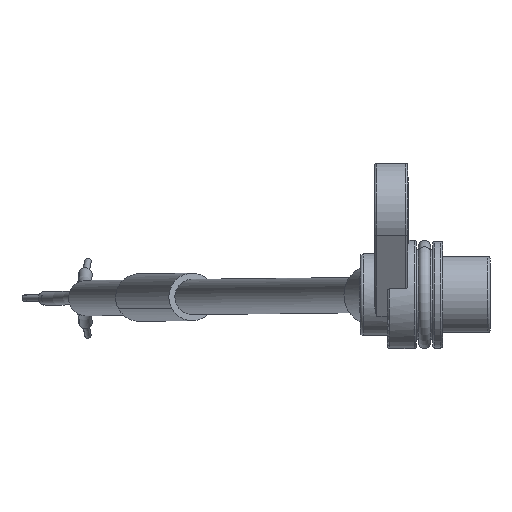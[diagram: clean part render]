
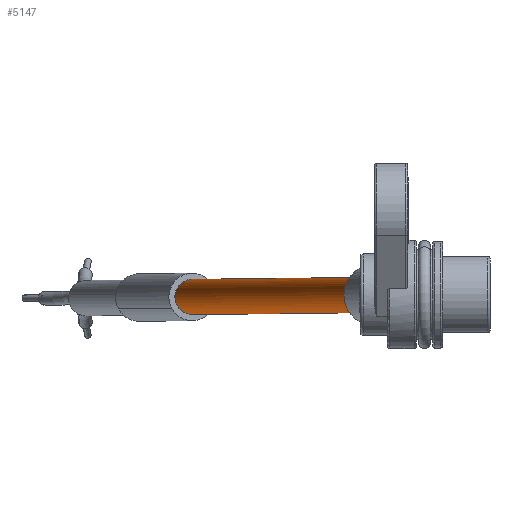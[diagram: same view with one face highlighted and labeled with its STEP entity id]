
A CAD part, top view. The second image highlights one B-rep face of the part: STEP entity #5147.
In plain terms, the highlighted cylindrical face has radius 2.6 mm (diameter 5.2 mm), a partial arc.
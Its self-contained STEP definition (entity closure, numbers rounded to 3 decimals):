
#4794=AXIS2_PLACEMENT_3D('Circle Axis2P3D',#4792,#4793,$) ;
#4894=AXIS2_PLACEMENT_3D('Cylinder Axis2P3D',#4891,#4892,#4893) ;
#5071=AXIS2_PLACEMENT_3D('Circle Axis2P3D',#5069,#5070,$) ;
#4792=CARTESIAN_POINT('Axis2P3D Location',(-170.,0.,0.)) ;
#4796=CARTESIAN_POINT('Vertex',(-170.,2.6,0.)) ;
#4798=CARTESIAN_POINT('Vertex',(-170.,-2.6,0.)) ;
#4891=CARTESIAN_POINT('Axis2P3D Location',(-135.,0.,0.)) ;
#5069=CARTESIAN_POINT('Axis2P3D Location',(0.,0.,0.)) ;
#5073=CARTESIAN_POINT('Vertex',(0.,2.6,0.)) ;
#5075=CARTESIAN_POINT('Vertex',(0.,-2.6,0.)) ;
#5131=CARTESIAN_POINT('Line Origine',(-135.,-2.6,0.)) ;
#5136=CARTESIAN_POINT('Line Origine',(-135.,2.6,0.)) ;
#4793=DIRECTION('Axis2P3D Direction',(1.,0.,0.)) ;
#4892=DIRECTION('Axis2P3D Direction',(1.,0.,0.)) ;
#4893=DIRECTION('Axis2P3D XDirection',(0.,1.,0.)) ;
#5070=DIRECTION('Axis2P3D Direction',(1.,0.,0.)) ;
#5132=DIRECTION('Vector Direction',(1.,0.,0.)) ;
#5137=DIRECTION('Vector Direction',(1.,0.,0.)) ;
#5133=VECTOR('Line Direction',#5132,1.) ;
#5138=VECTOR('Line Direction',#5137,1.) ;
#5142=ORIENTED_EDGE('',*,*,#5135,.F.) ;
#5143=ORIENTED_EDGE('',*,*,#5077,.F.) ;
#5144=ORIENTED_EDGE('',*,*,#5140,.T.) ;
#5145=ORIENTED_EDGE('',*,*,#4800,.T.) ;
#5147=ADVANCED_FACE('PartBody',(#5146),#4895,.T.) ;
#4795=CIRCLE('generated circle',#4794,2.6) ;
#5072=CIRCLE('generated circle',#5071,2.6) ;
#4895=CYLINDRICAL_SURFACE('generated cylinder',#4894,2.6) ;
#4800=EDGE_CURVE('',#4797,#4799,#4795,.T.) ;
#5077=EDGE_CURVE('',#5074,#5076,#5072,.T.) ;
#5135=EDGE_CURVE('',#5076,#4799,#5134,.F.) ;
#5140=EDGE_CURVE('',#5074,#4797,#5139,.F.) ;
#5141=EDGE_LOOP('',(#5142,#5143,#5144,#5145)) ;
#5146=FACE_OUTER_BOUND('',#5141,.T.) ;
#5134=LINE('Line',#5131,#5133) ;
#5139=LINE('Line',#5136,#5138) ;
#4797=VERTEX_POINT('',#4796) ;
#4799=VERTEX_POINT('',#4798) ;
#5074=VERTEX_POINT('',#5073) ;
#5076=VERTEX_POINT('',#5075) ;
